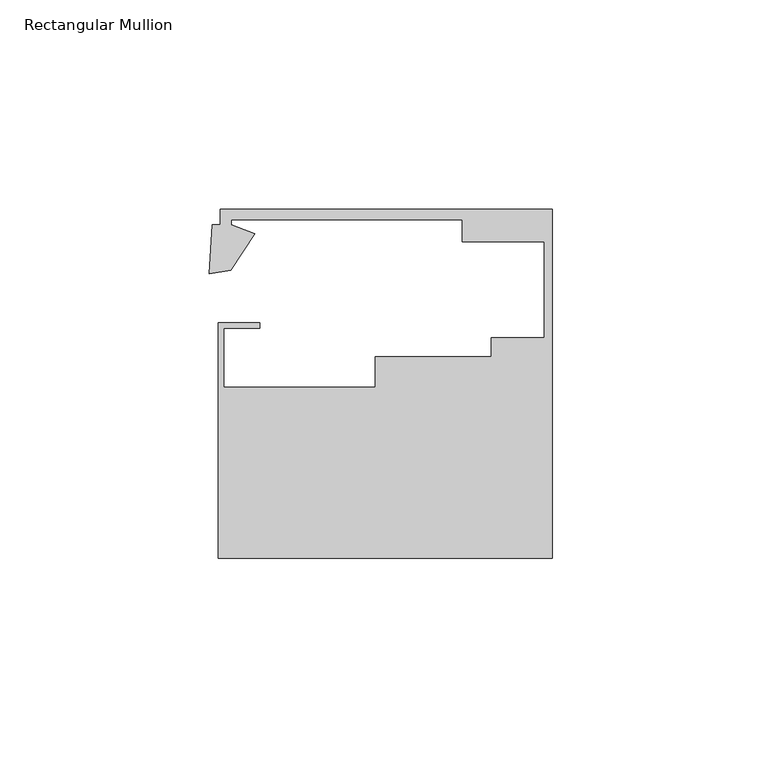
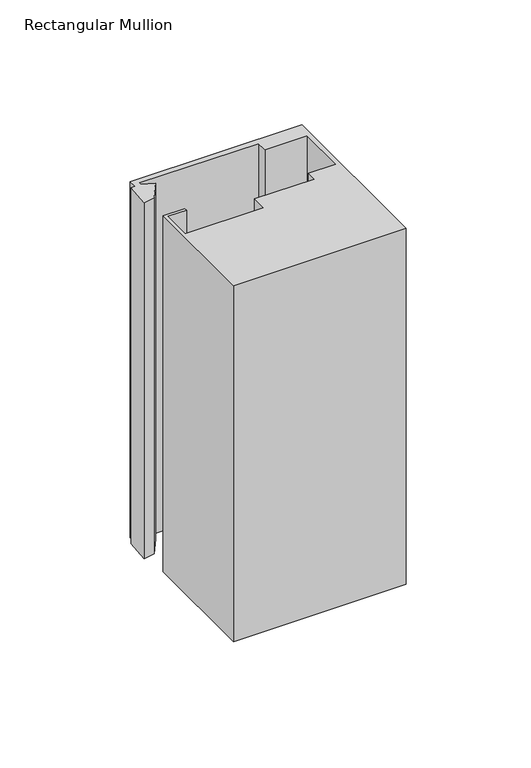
"""IFC4 building model written with IfcOpenShell, lengths in millimetres: member geometry, Rectangular Mullion : Danpal_NM_End-Mullion_B1."""

from ifc_helpers import new_model, si_unit, frame, origin, place, context, project, spatial, polyline, outline, extrude, source, transform, mapped, element, save


def rectangular_mullion_bc71cb79(model_context):
    return source(origin(), model_context, "Body", "SweptSolid", [
        extrude(outline(polyline([(0.0, -68.4940825), (-79.7784606, -68.4940825), (-79.7784606, -12.280939), (-69.8282946, -12.280939), (-69.8282946, -13.5916994), (-78.4582695, -13.5916994), (-78.4582695, -27.6399085), (-42.2578709, -27.6399085), (-42.2684147, -20.3894746), (-14.6000003, -20.3492381), (-14.6000003, -15.7940824), (-2.0000001, -15.7940824), (-2.0000001, 7.1181946), (-21.5478166, 7.1181946), (-21.5478166, 12.3181946), (-76.6478166, 12.3181946), (-76.6478166, 11.1168176), (-71.0577359, 9.0180613), (-76.7540801, 0.319325), (-81.8779002, -0.484903), (-81.1597999, 11.1413992), (-79.3474874, 11.1413992), (-79.3474874, 14.8003189), (0.0, 14.8051514), (0.0, -68.4940825)])), frame((0.0, 0.0, -173.858957), z_axis=(0.0, 0.0, 1.0), x_axis=(1.0, 0.0, 0.0)), (0.0, 0.0, 1.0), 173.858957),
    ])


if __name__ == "__main__":
    model = new_model("IFC4")
    model_context = context("Model", 3, world=origin())
    ifc_project = project(units=[si_unit("LENGTHUNIT", "METRE", prefix="MILLI")], contexts=[model_context])
    site = spatial("IfcSite", under=ifc_project)
    building = spatial("IfcBuilding", under=site)
    placement = place(None, origin())
    rectangular_mullion_shape = rectangular_mullion_bc71cb79(model_context)
    element("IfcMember", 1, ObjectType="Rectangular Mullion : Danpal_NM_End-Mullion_B1", at=placement, inside=building, context=model_context, shape_type="MappedRepresentation", body=[
        mapped(rectangular_mullion_shape, transform((0.0, 0.0, 0.0), x_axis=(1.0, 0.0, 0.0), y_axis=(0.0, 1.0, 0.0), z_axis=(0.0, 0.0, 1.0))),
    ])
    save(model, "model.ifc")
